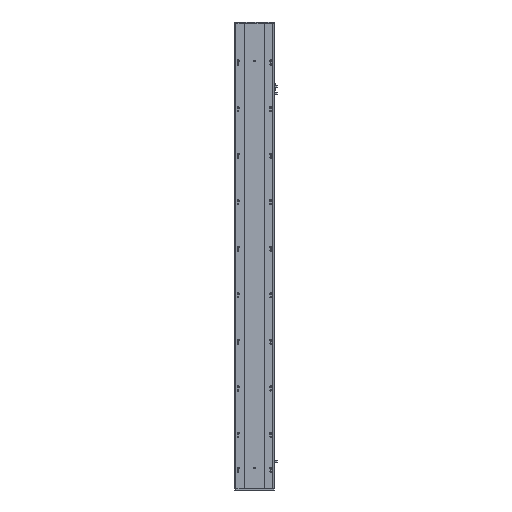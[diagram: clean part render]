
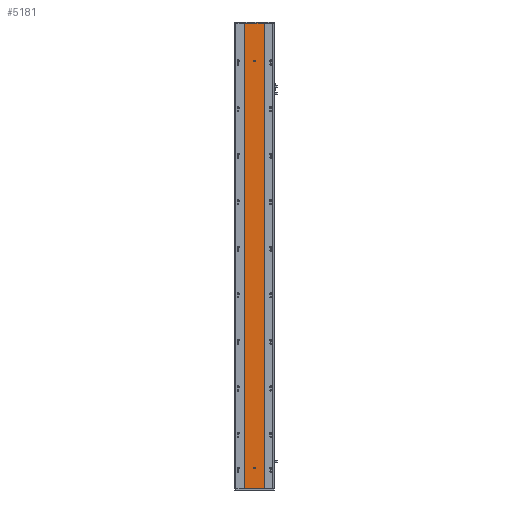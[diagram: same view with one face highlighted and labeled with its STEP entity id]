
A CAD part, front view. The second image highlights one B-rep face of the part: STEP entity #5181.
In plain terms, the highlighted planar face has unit normal (0, -1, 0).
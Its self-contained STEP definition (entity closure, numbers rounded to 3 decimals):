
#275 = CARTESIAN_POINT ( 'NONE',  ( 85., 2.57, 88.5 ) ) ;
#466 = ORIENTED_EDGE ( 'NONE', *, *, #7656, .T. ) ;
#1450 = DIRECTION ( 'NONE',  ( -1., 0., 0. ) ) ;
#1622 = DIRECTION ( 'NONE',  ( 0., 1., 0. ) ) ;
#1629 = ORIENTED_EDGE ( 'NONE', *, *, #25210, .T. ) ;
#1957 = CARTESIAN_POINT ( 'NONE',  ( 126.916, 2.57, 0. ) ) ;
#2412 = DIRECTION ( 'NONE',  ( 0., 0., 1. ) ) ;
#2676 = FACE_BOUND ( 'NONE', #22536, .T. ) ;
#3040 = CARTESIAN_POINT ( 'NONE',  ( 126.916, 2.57, 0. ) ) ;
#3659 = CARTESIAN_POINT ( 'NONE',  ( 42.916, 2.57, 0. ) ) ;
#3826 = EDGE_CURVE ( 'NONE', #17236, #11646, #12806, .T. ) ;
#5138 = VERTEX_POINT ( 'NONE', #11998 ) ;
#5181 = ADVANCED_FACE ( 'NONE', ( #25490, #2676, #19084 ), #20914, .F. ) ;
#6064 = CARTESIAN_POINT ( 'NONE',  ( 85., 2.57, 88.5 ) ) ;
#6449 = CIRCLE ( 'NONE', #17584, 3. ) ;
#6502 = VECTOR ( 'NONE', #12403, 1000. ) ;
#6515 = ORIENTED_EDGE ( 'NONE', *, *, #3826, .T. ) ;
#6642 = ORIENTED_EDGE ( 'NONE', *, *, #26218, .F. ) ;
#7150 = AXIS2_PLACEMENT_3D ( 'NONE', #6064, #21052, #8219 ) ;
#7367 = VERTEX_POINT ( 'NONE', #11309 ) ;
#7656 = EDGE_CURVE ( 'NONE', #5138, #12222, #10961, .T. ) ;
#7800 = CARTESIAN_POINT ( 'NONE',  ( 85., 2.57, 1835.5 ) ) ;
#8042 = VERTEX_POINT ( 'NONE', #3040 ) ;
#8219 = DIRECTION ( 'NONE',  ( 0., 0., 1. ) ) ;
#9274 = ORIENTED_EDGE ( 'NONE', *, *, #15790, .T. ) ;
#9418 = EDGE_CURVE ( 'NONE', #11646, #17236, #21048, .T. ) ;
#9732 = EDGE_CURVE ( 'NONE', #7367, #19413, #14289, .T. ) ;
#9818 = ORIENTED_EDGE ( 'NONE', *, *, #9732, .F. ) ;
#10210 = DIRECTION ( 'NONE',  ( 0., 0., 1. ) ) ;
#10961 = CIRCLE ( 'NONE', #19495, 3. ) ;
#11202 = CARTESIAN_POINT ( 'NONE',  ( 42.916, 2.57, 0. ) ) ;
#11309 = CARTESIAN_POINT ( 'NONE',  ( 42.916, 2.57, 0. ) ) ;
#11646 = VERTEX_POINT ( 'NONE', #27216 ) ;
#11685 = EDGE_LOOP ( 'NONE', ( #17252, #9818, #6642, #9274 ) ) ;
#11720 = EDGE_CURVE ( 'NONE', #25569, #19413, #17199, .T. ) ;
#11998 = CARTESIAN_POINT ( 'NONE',  ( 85., 2.57, 1841.5 ) ) ;
#12097 = CARTESIAN_POINT ( 'NONE',  ( 42.916, 2.57, 0. ) ) ;
#12222 = VERTEX_POINT ( 'NONE', #7800 ) ;
#12403 = DIRECTION ( 'NONE',  ( -1., 0., 0. ) ) ;
#12415 = DIRECTION ( 'NONE',  ( 0., 1., 0. ) ) ;
#12806 = CIRCLE ( 'NONE', #18275, 3. ) ;
#13337 = DIRECTION ( 'NONE',  ( 0., 0., 1. ) ) ;
#14289 = LINE ( 'NONE', #11202, #19342 ) ;
#14408 = CARTESIAN_POINT ( 'NONE',  ( 85., 2.57, 1838.5 ) ) ;
#15200 = DIRECTION ( 'NONE',  ( 0., 1., 0. ) ) ;
#15790 = EDGE_CURVE ( 'NONE', #8042, #25569, #17697, .T. ) ;
#16106 = EDGE_LOOP ( 'NONE', ( #6515, #24529 ) ) ;
#16569 = DIRECTION ( 'NONE',  ( 0., 0., 1. ) ) ;
#16909 = DIRECTION ( 'NONE',  ( 0., 0., 1. ) ) ;
#17002 = VECTOR ( 'NONE', #16909, 1000. ) ;
#17199 = LINE ( 'NONE', #27390, #6502 ) ;
#17236 = VERTEX_POINT ( 'NONE', #24742 ) ;
#17252 = ORIENTED_EDGE ( 'NONE', *, *, #11720, .T. ) ;
#17584 = AXIS2_PLACEMENT_3D ( 'NONE', #14408, #1622, #16569 ) ;
#17697 = LINE ( 'NONE', #1957, #17002 ) ;
#18275 = AXIS2_PLACEMENT_3D ( 'NONE', #275, #15200, #2412 ) ;
#18786 = LINE ( 'NONE', #12097, #24495 ) ;
#19084 = FACE_OUTER_BOUND ( 'NONE', #11685, .T. ) ;
#19342 = VECTOR ( 'NONE', #13337, 1000. ) ;
#19413 = VERTEX_POINT ( 'NONE', #21411 ) ;
#19495 = AXIS2_PLACEMENT_3D ( 'NONE', #25280, #12415, #27404 ) ;
#20914 = PLANE ( 'NONE',  #22830 ) ;
#21048 = CIRCLE ( 'NONE', #7150, 3. ) ;
#21052 = DIRECTION ( 'NONE',  ( 0., 1., 0. ) ) ;
#21411 = CARTESIAN_POINT ( 'NONE',  ( 42.916, 2.57, 2001. ) ) ;
#22536 = EDGE_LOOP ( 'NONE', ( #1629, #466 ) ) ;
#22830 = AXIS2_PLACEMENT_3D ( 'NONE', #3659, #23072, #10210 ) ;
#23072 = DIRECTION ( 'NONE',  ( 0., 1., 0. ) ) ;
#24495 = VECTOR ( 'NONE', #1450, 1000. ) ;
#24529 = ORIENTED_EDGE ( 'NONE', *, *, #9418, .T. ) ;
#24742 = CARTESIAN_POINT ( 'NONE',  ( 85., 2.57, 85.5 ) ) ;
#25210 = EDGE_CURVE ( 'NONE', #12222, #5138, #6449, .T. ) ;
#25280 = CARTESIAN_POINT ( 'NONE',  ( 85., 2.57, 1838.5 ) ) ;
#25490 = FACE_BOUND ( 'NONE', #16106, .T. ) ;
#25569 = VERTEX_POINT ( 'NONE', #26419 ) ;
#26218 = EDGE_CURVE ( 'NONE', #8042, #7367, #18786, .T. ) ;
#26419 = CARTESIAN_POINT ( 'NONE',  ( 126.916, 2.57, 2001. ) ) ;
#27216 = CARTESIAN_POINT ( 'NONE',  ( 85., 2.57, 91.5 ) ) ;
#27390 = CARTESIAN_POINT ( 'NONE',  ( 42.916, 2.57, 2001. ) ) ;
#27404 = DIRECTION ( 'NONE',  ( 0., 0., 1. ) ) ;
